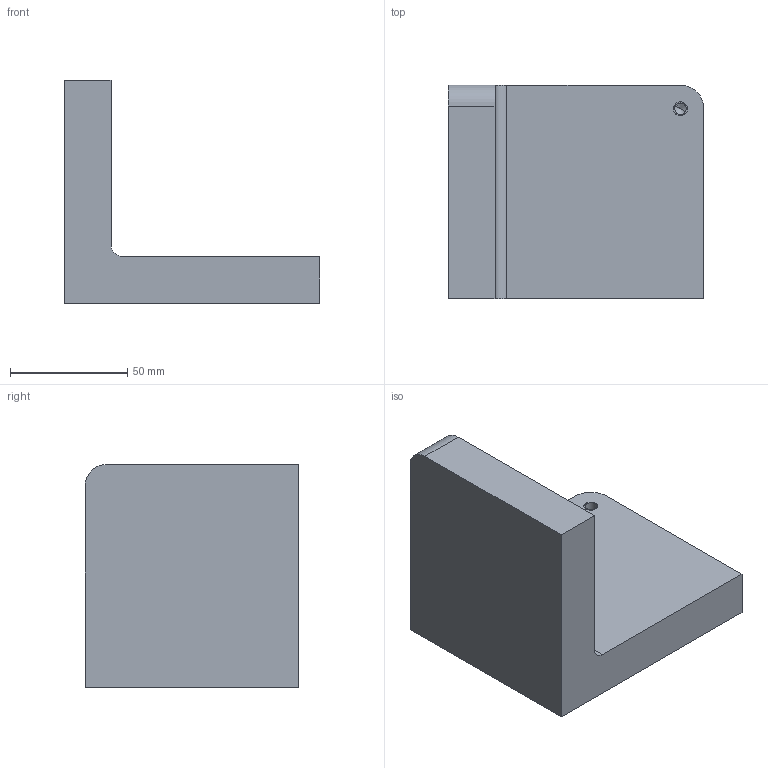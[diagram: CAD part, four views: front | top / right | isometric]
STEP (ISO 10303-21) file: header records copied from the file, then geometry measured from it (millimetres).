
FILE_DESCRIPTION(('CATIA V5 STEP Exchange'),'2;1');
FILE_NAME('C:\_Andres\UNIVERSIDAD\IQS\ASIGNATURAS\DAO\EXF\EXF-16172c\2inicio\Domeque_Sanz_Ej01_v9.stp','2017-03-05T15:11:05+00:00',('none'),('none'),'CATIA Version 5-6 Release 2014 SP1 HF18','CATIA V5 STEP AP203','none');
FILE_SCHEMA(('CONFIG_CONTROL_DESIGN'));
Length unit declared in the file: millimetre
Products named in the file (1): Domeque_Sanz_Ej01_v9
Bounding box: 109 x 91 x 95 mm (x, y, z)
Volume: 334278.6 mm3; surface area: 44538.9 mm2
Topology: 1 solids, 2 shells, 17 faces, 43 edges, 27 vertices
Faces by surface type: plane 8, cylinder 7, cone 2
Entity records: 513 total; most frequent: CARTESIAN_POINT 83, ORIENTED_EDGE 78, DIRECTION 69, EDGE_CURVE 41, AXIS2_PLACEMENT_3D 29, VECTOR 27, LINE 27, VERTEX_POINT 27
